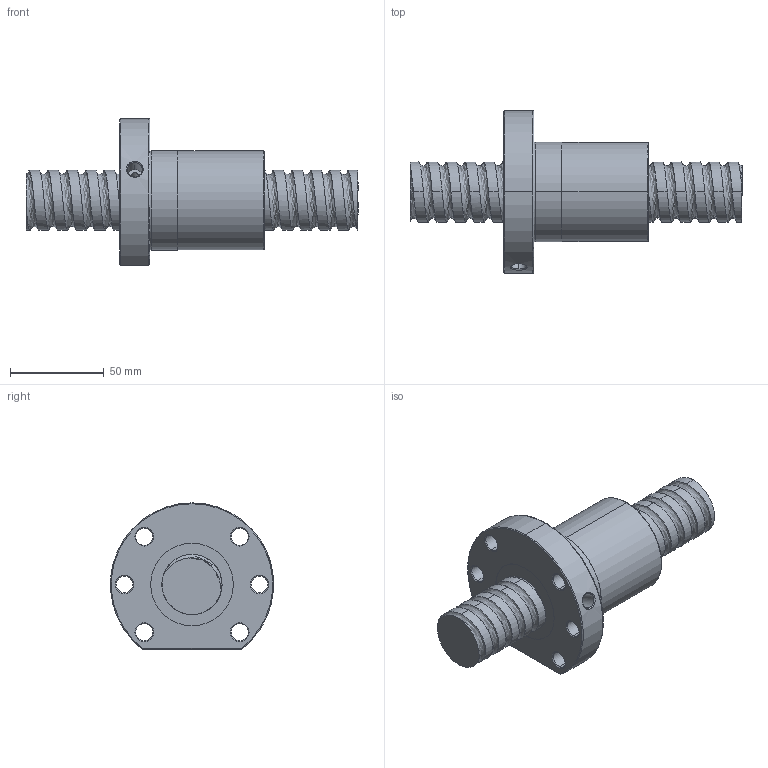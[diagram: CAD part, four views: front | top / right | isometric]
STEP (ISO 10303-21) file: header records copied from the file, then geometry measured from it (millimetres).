
FILE_DESCRIPTION (( 'STEP AP214' ), '1' );
FILE_NAME ('FSDC03210T5-D-B.STEP', '2010-06-25T11:43:09', ( 'XPAUTO' ), ( 'XPAUTO' ), 'SwSTEP 2.0', 'SolidWorks 2007', '' );
FILE_SCHEMA (( 'AUTOMOTIVE_DESIGN' ));
Length unit declared in the file: millimetre
Products named in the file (3): FSDC03210T5-D-B.sldasm-Part-1_預設; FSDC03210T5-D-B.sldasm-Part-2_預設; FSDC03210T5-D-B
Assembly tree (2 placements, depth 2):
  FSDC03210T5-D-B
    FSDC03210T5-D-B.sldasm-Part-1_預設
    FSDC03210T5-D-B.sldasm-Part-2_預設
Bounding box: 177 x 86.73 x 78 mm (x, y, z)
Volume: 285145.7 mm3; surface area: 56428.8 mm2
Topology: 2 solids, 3 shells, 128 faces, 317 edges, 200 vertices
Faces by surface type: cylinder 74, cone 24, plane 20, bspline 5, torus 5
Entity records: 25943 total; most frequent: CARTESIAN_POINT 22924, ORIENTED_EDGE 634, DIRECTION 583, EDGE_CURVE 317, AXIS2_PLACEMENT_3D 237, VERTEX_POINT 200, EDGE_LOOP 149, ADVANCED_FACE 128
